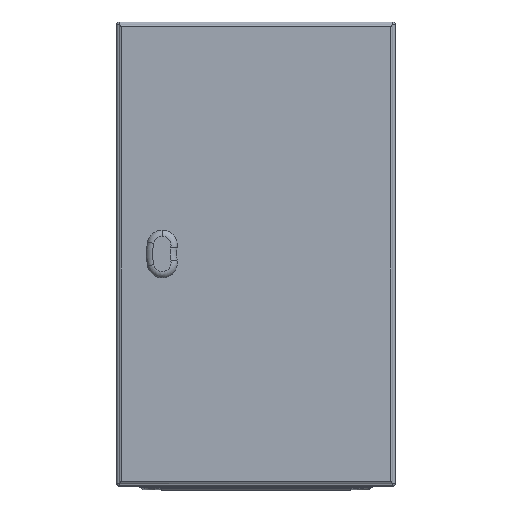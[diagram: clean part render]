
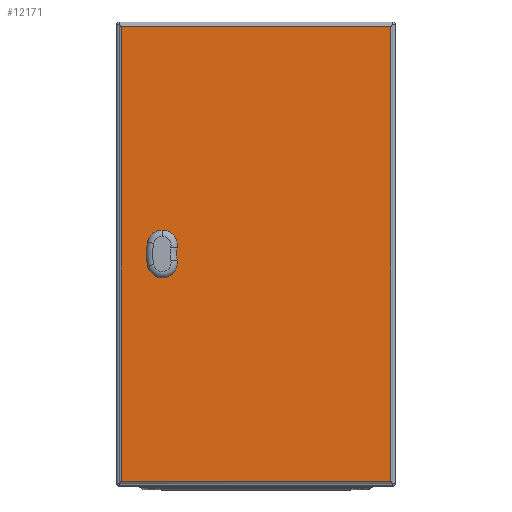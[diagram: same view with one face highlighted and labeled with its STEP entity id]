
A CAD part, top view. The second image highlights one B-rep face of the part: STEP entity #12171.
In plain terms, the highlighted planar face has unit normal (0, 0, 1) as drawn and (0, 0, -1) by its records, which use the part's own axes.
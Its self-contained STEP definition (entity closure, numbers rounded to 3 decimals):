
#365 = CARTESIAN_POINT ( 'NONE',  ( -147.5, -245., 0. ) ) ;
#472 = LINE ( 'NONE', #365, #12502 ) ;
#680 = CARTESIAN_POINT ( 'NONE',  ( 101., 0., 0. ) ) ;
#860 = EDGE_CURVE ( 'NONE', #15258, #13350, #3248, .T. ) ;
#1138 = ORIENTED_EDGE ( 'NONE', *, *, #2187, .T. ) ;
#1145 = PLANE ( 'NONE',  #12283 ) ;
#1292 = DIRECTION ( 'NONE',  ( 1., 0., 0. ) ) ;
#1341 = DIRECTION ( 'NONE',  ( 1., 0., 0. ) ) ;
#1379 = ORIENTED_EDGE ( 'NONE', *, *, #13604, .F. ) ;
#1548 = VERTEX_POINT ( 'NONE', #12010 ) ;
#1792 = CARTESIAN_POINT ( 'NONE',  ( 101., 0., 0. ) ) ;
#1815 = CIRCLE ( 'NONE', #8559, 11.25 ) ;
#2056 = DIRECTION ( 'NONE',  ( -1., 0., 0. ) ) ;
#2165 = VERTEX_POINT ( 'NONE', #15859 ) ;
#2187 = EDGE_CURVE ( 'NONE', #5727, #17987, #17637, .T. ) ;
#2245 = CIRCLE ( 'NONE', #13640, 11.25 ) ;
#2367 = DIRECTION ( 'NONE',  ( 0., 0., -1. ) ) ;
#2631 = EDGE_CURVE ( 'NONE', #1548, #5727, #472, .T. ) ;
#2761 = CARTESIAN_POINT ( 'NONE',  ( 101., 0., 0. ) ) ;
#3066 = VERTEX_POINT ( 'NONE', #19331 ) ;
#3248 = LINE ( 'NONE', #6380, #17742 ) ;
#3264 = CARTESIAN_POINT ( 'NONE',  ( 145., -247.5, 0. ) ) ;
#3421 = ORIENTED_EDGE ( 'NONE', *, *, #18285, .T. ) ;
#3520 = EDGE_CURVE ( 'NONE', #3066, #4111, #16562, .T. ) ;
#4111 = VERTEX_POINT ( 'NONE', #10254 ) ;
#4131 = CARTESIAN_POINT ( 'NONE',  ( 90.95, -5.056, 0. ) ) ;
#4263 = DIRECTION ( 'NONE',  ( -1., 0., 0. ) ) ;
#4325 = ORIENTED_EDGE ( 'NONE', *, *, #6706, .F. ) ;
#4660 = LINE ( 'NONE', #13221, #11924 ) ;
#5240 = EDGE_CURVE ( 'NONE', #8228, #15258, #19326, .T. ) ;
#5338 = ORIENTED_EDGE ( 'NONE', *, *, #3520, .F. ) ;
#5727 = VERTEX_POINT ( 'NONE', #20129 ) ;
#6092 = DIRECTION ( 'NONE',  ( -1., 0., 0. ) ) ;
#6380 = CARTESIAN_POINT ( 'NONE',  ( 111.05, -5.056, 0. ) ) ;
#6473 = DIRECTION ( 'NONE',  ( 0., 1., 0. ) ) ;
#6496 = FACE_BOUND ( 'NONE', #20818, .T. ) ;
#6578 = VECTOR ( 'NONE', #6473, 1000. ) ;
#6706 = EDGE_CURVE ( 'NONE', #18048, #2165, #12387, .T. ) ;
#6996 = EDGE_LOOP ( 'NONE', ( #1138, #8353, #3421, #17559 ) ) ;
#7156 = CARTESIAN_POINT ( 'NONE',  ( -145., 245., 0. ) ) ;
#7208 = EDGE_CURVE ( 'NONE', #17987, #10538, #4660, .T. ) ;
#7467 = ORIENTED_EDGE ( 'NONE', *, *, #7646, .F. ) ;
#7563 = ORIENTED_EDGE ( 'NONE', *, *, #5240, .F. ) ;
#7646 = EDGE_CURVE ( 'NONE', #2165, #13842, #1815, .T. ) ;
#7726 = FACE_OUTER_BOUND ( 'NONE', #6996, .T. ) ;
#7936 = CARTESIAN_POINT ( 'NONE',  ( 111.05, -5.056, 0. ) ) ;
#8228 = VERTEX_POINT ( 'NONE', #16033 ) ;
#8353 = ORIENTED_EDGE ( 'NONE', *, *, #7208, .T. ) ;
#8469 = DIRECTION ( 'NONE',  ( 0., -1., 0. ) ) ;
#8559 = AXIS2_PLACEMENT_3D ( 'NONE', #2761, #9307, #6092 ) ;
#8662 = VECTOR ( 'NONE', #11820, 1000. ) ;
#8751 = CARTESIAN_POINT ( 'NONE',  ( 111.05, 5.056, 0. ) ) ;
#9056 = CARTESIAN_POINT ( 'NONE',  ( 106.056, -10.05, 0. ) ) ;
#9289 = ORIENTED_EDGE ( 'NONE', *, *, #20526, .F. ) ;
#9307 = DIRECTION ( 'NONE',  ( 0., 0., -1. ) ) ;
#9628 = ORIENTED_EDGE ( 'NONE', *, *, #860, .F. ) ;
#9636 = CARTESIAN_POINT ( 'NONE',  ( -145., 247.5, 0. ) ) ;
#9756 = CARTESIAN_POINT ( 'NONE',  ( 101., 0., 0. ) ) ;
#9809 = LINE ( 'NONE', #16580, #16551 ) ;
#10164 = AXIS2_PLACEMENT_3D ( 'NONE', #9756, #19748, #1292 ) ;
#10254 = CARTESIAN_POINT ( 'NONE',  ( 95.944, 10.05, 0. ) ) ;
#10523 = VECTOR ( 'NONE', #2056, 1000. ) ;
#10538 = VERTEX_POINT ( 'NONE', #19739 ) ;
#11182 = AXIS2_PLACEMENT_3D ( 'NONE', #1792, #21831, #16820 ) ;
#11820 = DIRECTION ( 'NONE',  ( 0., -1., 0. ) ) ;
#11924 = VECTOR ( 'NONE', #16436, 1000. ) ;
#12010 = CARTESIAN_POINT ( 'NONE',  ( 145., -245., 0. ) ) ;
#12171 = ADVANCED_FACE ( 'NONE', ( #6496, #7726 ), #1145, .T. ) ;
#12283 = AXIS2_PLACEMENT_3D ( 'NONE', #14526, #18063, #21284 ) ;
#12387 = LINE ( 'NONE', #9056, #10523 ) ;
#12502 = VECTOR ( 'NONE', #13940, 1000. ) ;
#13221 = CARTESIAN_POINT ( 'NONE',  ( 147.5, 245., 0. ) ) ;
#13350 = VERTEX_POINT ( 'NONE', #7936 ) ;
#13604 = EDGE_CURVE ( 'NONE', #13350, #18048, #2245, .T. ) ;
#13640 = AXIS2_PLACEMENT_3D ( 'NONE', #680, #2367, #4263 ) ;
#13842 = VERTEX_POINT ( 'NONE', #4131 ) ;
#13940 = DIRECTION ( 'NONE',  ( -1., 0., 0. ) ) ;
#14526 = CARTESIAN_POINT ( 'NONE',  ( 147.5, 247.5, 0. ) ) ;
#14535 = ORIENTED_EDGE ( 'NONE', *, *, #18790, .F. ) ;
#14924 = CARTESIAN_POINT ( 'NONE',  ( 90.95, -5.056, 0. ) ) ;
#15258 = VERTEX_POINT ( 'NONE', #8751 ) ;
#15859 = CARTESIAN_POINT ( 'NONE',  ( 95.944, -10.05, 0. ) ) ;
#16033 = CARTESIAN_POINT ( 'NONE',  ( 106.056, 10.05, 0. ) ) ;
#16436 = DIRECTION ( 'NONE',  ( 1., 0., 0. ) ) ;
#16551 = VECTOR ( 'NONE', #1341, 1000. ) ;
#16562 = CIRCLE ( 'NONE', #10164, 11.25 ) ;
#16580 = CARTESIAN_POINT ( 'NONE',  ( 106.056, 10.05, 0. ) ) ;
#16820 = DIRECTION ( 'NONE',  ( 1., 0., 0. ) ) ;
#17559 = ORIENTED_EDGE ( 'NONE', *, *, #2631, .T. ) ;
#17637 = LINE ( 'NONE', #9636, #18159 ) ;
#17742 = VECTOR ( 'NONE', #8469, 1000. ) ;
#17987 = VERTEX_POINT ( 'NONE', #7156 ) ;
#18048 = VERTEX_POINT ( 'NONE', #20942 ) ;
#18063 = DIRECTION ( 'NONE',  ( 0., 0., -1. ) ) ;
#18159 = VECTOR ( 'NONE', #19632, 1000. ) ;
#18285 = EDGE_CURVE ( 'NONE', #10538, #1548, #20164, .T. ) ;
#18790 = EDGE_CURVE ( 'NONE', #13842, #3066, #19905, .T. ) ;
#19326 = CIRCLE ( 'NONE', #11182, 11.25 ) ;
#19331 = CARTESIAN_POINT ( 'NONE',  ( 90.95, 5.056, 0. ) ) ;
#19632 = DIRECTION ( 'NONE',  ( 0., 1., 0. ) ) ;
#19739 = CARTESIAN_POINT ( 'NONE',  ( 145., 245., 0. ) ) ;
#19748 = DIRECTION ( 'NONE',  ( 0., 0., -1. ) ) ;
#19905 = LINE ( 'NONE', #14924, #6578 ) ;
#20129 = CARTESIAN_POINT ( 'NONE',  ( -145., -245., 0. ) ) ;
#20164 = LINE ( 'NONE', #3264, #8662 ) ;
#20526 = EDGE_CURVE ( 'NONE', #4111, #8228, #9809, .T. ) ;
#20818 = EDGE_LOOP ( 'NONE', ( #7467, #4325, #1379, #9628, #7563, #9289, #5338, #14535 ) ) ;
#20942 = CARTESIAN_POINT ( 'NONE',  ( 106.056, -10.05, 0. ) ) ;
#21284 = DIRECTION ( 'NONE',  ( -1., 0., 0. ) ) ;
#21831 = DIRECTION ( 'NONE',  ( 0., 0., -1. ) ) ;
